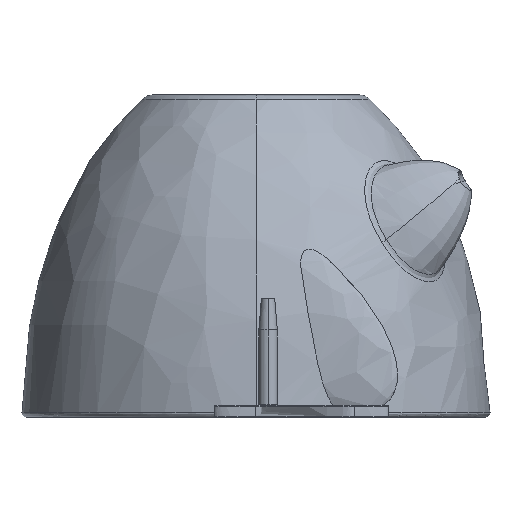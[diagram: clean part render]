
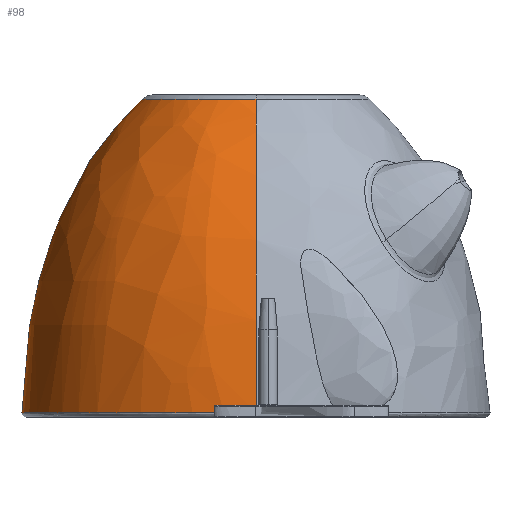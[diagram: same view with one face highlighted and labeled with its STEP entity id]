
A CAD part, left-side view. The second image highlights one B-rep face of the part: STEP entity #98.
In plain terms, the highlighted free-form (B-spline) face has degree [2, 2] with [9, 5] control points.
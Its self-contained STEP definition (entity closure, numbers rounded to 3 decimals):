
#98=ADVANCED_FACE('',(#174),#1026,.T.);
#174=FACE_OUTER_BOUND('',#256,.T.);
#256=EDGE_LOOP('',(#531,#532,#533,#534));
#531=ORIENTED_EDGE('',*,*,#679,.F.);
#532=ORIENTED_EDGE('',*,*,#675,.T.);
#533=ORIENTED_EDGE('',*,*,#669,.T.);
#534=ORIENTED_EDGE('',*,*,#708,.F.);
#669=EDGE_CURVE('',#937,#957,#835,.T.);
#675=EDGE_CURVE('',#941,#937,#841,.T.);
#679=EDGE_CURVE('',#941,#961,#845,.T.);
#708=EDGE_CURVE('',#961,#957,#868,.T.);
#835=(
BOUNDED_CURVE()
B_SPLINE_CURVE(2,(#7633,#7634,#7635,#7636,#7637),.UNSPECIFIED.,.F.,.F.)
B_SPLINE_CURVE_WITH_KNOTS((3,2,3),(0.,18.241,36.482),
 .UNSPECIFIED.)
CURVE()
GEOMETRIC_REPRESENTATION_ITEM()
RATIONAL_B_SPLINE_CURVE((1.,0.66,0.87,0.66,
1.))
REPRESENTATION_ITEM('')
);
#841=(
BOUNDED_CURVE()
B_SPLINE_CURVE(2,(#7707,#7708,#7709),.UNSPECIFIED.,.F.,.F.)
B_SPLINE_CURVE_WITH_KNOTS((3,3),(0.359,27.854),
 .UNSPECIFIED.)
CURVE()
GEOMETRIC_REPRESENTATION_ITEM()
RATIONAL_B_SPLINE_CURVE((1.,0.865,1.))
REPRESENTATION_ITEM('')
);
#845=(
BOUNDED_CURVE()
B_SPLINE_CURVE(3,(#7720,#7721,#7722,#7723,#7724,#7725,#7726,#7727,#7728,
#7729,#7730,#7731,#7732,#7733,#7734,#7735,#7736),.UNSPECIFIED.,.F.,.F.)
B_SPLINE_CURVE_WITH_KNOTS((4,1,1,1,1,1,3,1,1,1,1,1,4),(0.,9.815,
15.133,20.45,25.768,31.085,40.9,
50.715,56.033,61.35,66.668,71.985,
81.8),.UNSPECIFIED.)
CURVE()
GEOMETRIC_REPRESENTATION_ITEM()
RATIONAL_B_SPLINE_CURVE((1.,1.,1.,1.,1.,1.,
1.,1.,1.,1.,1.,1.,1.,1.,1.,1.,1.))
REPRESENTATION_ITEM('')
);
#868=(
BOUNDED_CURVE()
B_SPLINE_CURVE(2,(#8111,#8112,#8113),.UNSPECIFIED.,.F.,.F.)
B_SPLINE_CURVE_WITH_KNOTS((3,3),(0.359,27.854),
 .UNSPECIFIED.)
CURVE()
GEOMETRIC_REPRESENTATION_ITEM()
RATIONAL_B_SPLINE_CURVE((1.,0.865,1.))
REPRESENTATION_ITEM('')
);
#937=VERTEX_POINT('',#7399);
#941=VERTEX_POINT('',#7403);
#957=VERTEX_POINT('',#7419);
#961=VERTEX_POINT('',#7423);
#1026=(
BOUNDED_SURFACE()
B_SPLINE_SURFACE(2,2,((#6769,#6770,#6771,#6772,#6773),(#6774,#6775,#6776,
#6777,#6778),(#6779,#6780,#6781,#6782,#6783),(#6784,#6785,#6786,#6787,#6788),
(#6789,#6790,#6791,#6792,#6793),(#6794,#6795,#6796,#6797,#6798),(#6799,
#6800,#6801,#6802,#6803),(#6804,#6805,#6806,#6807,#6808),(#6809,#6810,#6811,
#6812,#6813)),.UNSPECIFIED.,.T.,.F.,.F.)
B_SPLINE_SURFACE_WITH_KNOTS((3,2,2,2,3),(3,2,3),(0.,41.689,83.378,
125.067,166.756),(-41.689,0.,41.689),
 .UNSPECIFIED.)
GEOMETRIC_REPRESENTATION_ITEM()
RATIONAL_B_SPLINE_SURFACE(((1.,0.707,1.,0.707,1.),
(0.707,0.5,0.707,0.5,0.707),(1.,0.707,
1.,0.707,1.),(0.707,0.5,0.707,0.5,0.707),
(1.,0.707,1.,0.707,1.),(0.707,0.5,0.707,
0.5,0.707),(1.,0.707,1.,0.707,1.),(0.707,
0.5,0.707,0.5,0.707),(1.,0.707,1.,0.707,
1.)))
REPRESENTATION_ITEM('')
SURFACE()
);
#6769=CARTESIAN_POINT('',(0.,0.,-41.309));
#6770=CARTESIAN_POINT('',(-26.54,0.,-41.309));
#6771=CARTESIAN_POINT('',(-26.54,0.,0.));
#6772=CARTESIAN_POINT('',(-26.54,0.,41.309));
#6773=CARTESIAN_POINT('',(0.,0.,41.309));
#6774=CARTESIAN_POINT('',(0.,0.,-41.309));
#6775=CARTESIAN_POINT('',(-26.54,-26.54,-41.309));
#6776=CARTESIAN_POINT('',(-26.54,-26.54,0.));
#6777=CARTESIAN_POINT('',(-26.54,-26.54,41.309));
#6778=CARTESIAN_POINT('',(0.,0.,41.309));
#6779=CARTESIAN_POINT('',(0.,0.,-41.309));
#6780=CARTESIAN_POINT('',(0.,-26.54,-41.309));
#6781=CARTESIAN_POINT('',(0.,-26.54,0.));
#6782=CARTESIAN_POINT('',(0.,-26.54,41.309));
#6783=CARTESIAN_POINT('',(0.,0.,41.309));
#6784=CARTESIAN_POINT('',(0.,0.,-41.309));
#6785=CARTESIAN_POINT('',(26.54,-26.54,-41.309));
#6786=CARTESIAN_POINT('',(26.54,-26.54,0.));
#6787=CARTESIAN_POINT('',(26.54,-26.54,41.309));
#6788=CARTESIAN_POINT('',(0.,0.,41.309));
#6789=CARTESIAN_POINT('',(0.,0.,-41.309));
#6790=CARTESIAN_POINT('',(26.54,0.,-41.309));
#6791=CARTESIAN_POINT('',(26.54,0.,0.));
#6792=CARTESIAN_POINT('',(26.54,0.,41.309));
#6793=CARTESIAN_POINT('',(0.,0.,41.309));
#6794=CARTESIAN_POINT('',(0.,0.,-41.309));
#6795=CARTESIAN_POINT('',(26.54,26.54,-41.309));
#6796=CARTESIAN_POINT('',(26.54,26.54,0.));
#6797=CARTESIAN_POINT('',(26.54,26.54,41.309));
#6798=CARTESIAN_POINT('',(0.,0.,41.309));
#6799=CARTESIAN_POINT('',(0.,0.,-41.309));
#6800=CARTESIAN_POINT('',(0.,26.54,-41.309));
#6801=CARTESIAN_POINT('',(0.,26.54,0.));
#6802=CARTESIAN_POINT('',(0.,26.54,41.309));
#6803=CARTESIAN_POINT('',(0.,0.,41.309));
#6804=CARTESIAN_POINT('',(0.,0.,-41.309));
#6805=CARTESIAN_POINT('',(-26.54,26.54,-41.309));
#6806=CARTESIAN_POINT('',(-26.54,26.54,0.));
#6807=CARTESIAN_POINT('',(-26.54,26.54,41.309));
#6808=CARTESIAN_POINT('',(0.,0.,41.309));
#6809=CARTESIAN_POINT('',(0.,0.,-41.309));
#6810=CARTESIAN_POINT('',(-26.54,0.,-41.309));
#6811=CARTESIAN_POINT('',(-26.54,0.,0.));
#6812=CARTESIAN_POINT('',(-26.54,0.,41.309));
#6813=CARTESIAN_POINT('',(0.,0.,41.309));
#7399=CARTESIAN_POINT('',(-12.923,0.,36.081));
#7403=CARTESIAN_POINT('',(-26.538,0.,0.504));
#7419=CARTESIAN_POINT('',(12.923,0.,36.081));
#7423=CARTESIAN_POINT('',(26.538,0.,0.504));
#7633=CARTESIAN_POINT('',(-12.923,0.,36.081));
#7634=CARTESIAN_POINT('',(-12.923,12.923,36.081));
#7635=CARTESIAN_POINT('',(0.,12.923,36.081));
#7636=CARTESIAN_POINT('',(12.923,12.923,36.081));
#7637=CARTESIAN_POINT('',(12.923,0.,36.081));
#7707=CARTESIAN_POINT('',(-26.538,0.,0.504));
#7708=CARTESIAN_POINT('',(-26.35,0.,24.429));
#7709=CARTESIAN_POINT('',(-12.923,0.,36.081));
#7720=CARTESIAN_POINT('',(-26.538,0.,0.504));
#7721=CARTESIAN_POINT('',(-26.541,3.335,0.504));
#7722=CARTESIAN_POINT('',(-25.556,8.474,0.504));
#7723=CARTESIAN_POINT('',(-22.335,14.671,0.504));
#7724=CARTESIAN_POINT('',(-18.897,18.896,0.504));
#7725=CARTESIAN_POINT('',(-14.671,22.335,0.504));
#7726=CARTESIAN_POINT('',(-8.474,25.556,0.504));
#7727=CARTESIAN_POINT('',(-3.335,26.541,0.504));
#7728=CARTESIAN_POINT('',(0.,26.538,0.504));
#7729=CARTESIAN_POINT('',(3.335,26.541,0.504));
#7730=CARTESIAN_POINT('',(8.474,25.556,0.504));
#7731=CARTESIAN_POINT('',(14.671,22.335,0.504));
#7732=CARTESIAN_POINT('',(18.896,18.897,0.504));
#7733=CARTESIAN_POINT('',(22.335,14.671,0.504));
#7734=CARTESIAN_POINT('',(25.556,8.474,0.504));
#7735=CARTESIAN_POINT('',(26.541,3.335,0.504));
#7736=CARTESIAN_POINT('',(26.538,0.,0.504));
#8111=CARTESIAN_POINT('',(26.538,0.,0.504));
#8112=CARTESIAN_POINT('',(26.35,0.,24.429));
#8113=CARTESIAN_POINT('',(12.923,0.,36.081));
